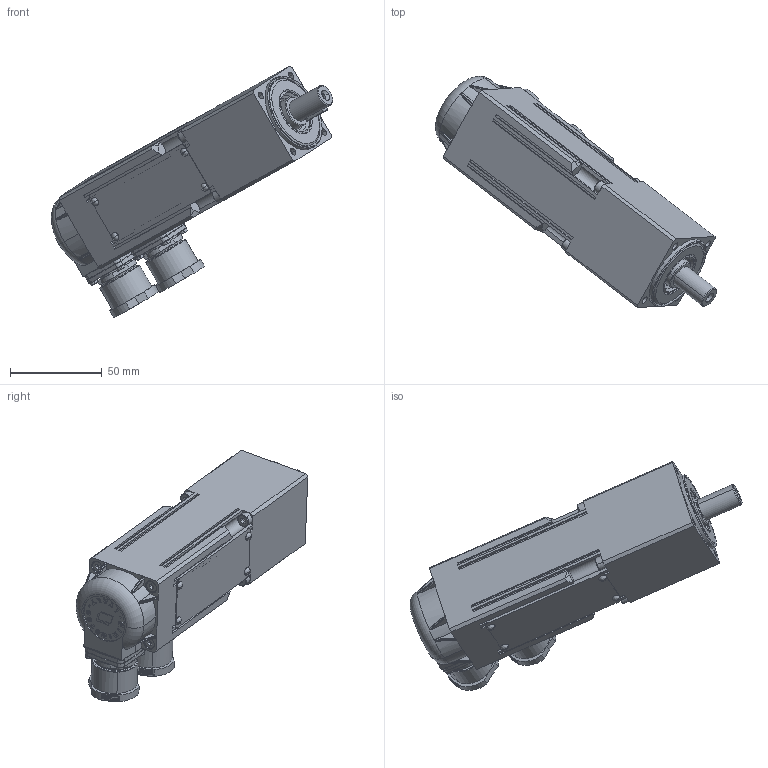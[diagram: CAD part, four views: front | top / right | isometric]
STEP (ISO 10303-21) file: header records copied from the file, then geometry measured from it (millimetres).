
FILE_DESCRIPTION((''),'2;1');
FILE_NAME('C:\Documents and Settings\marco\Desktop\DATI\DATI MARCO\Disegni inventor\STEP\BSE45\BSE45_35RC-1 stadio.stp','2003-08-26T16:14:14',('Administrator'),(''),'Autodesk Inventor 7','Autodesk Inventor 7','');
FILE_SCHEMA(('AUTOMOTIVE_DESIGN { 1 0 10303 214 1 1 1 1 }'));
Length unit declared in the file: millimetre
Products named in the file (1): BSE45_35RC-1 stadio
Bounding box: 152.84 x 125.84 x 136.77 mm (x, y, z)
Volume: 174291.9 mm3; surface area: 98106.6 mm2
Topology: 50 solids, 50 shells, 3452 faces, 9289 edges, 6025 vertices
Faces by surface type: plane 1823, cylinder 828, bspline 397, cone 301, torus 103
Entity records: 118910 total; most frequent: CARTESIAN_POINT 31930, ORIENTED_EDGE 18506, DIRECTION 18056, EDGE_CURVE 9253, AXIS2_PLACEMENT_3D 6158, VERTEX_POINT 6025, VECTOR 5740, LINE 5740
